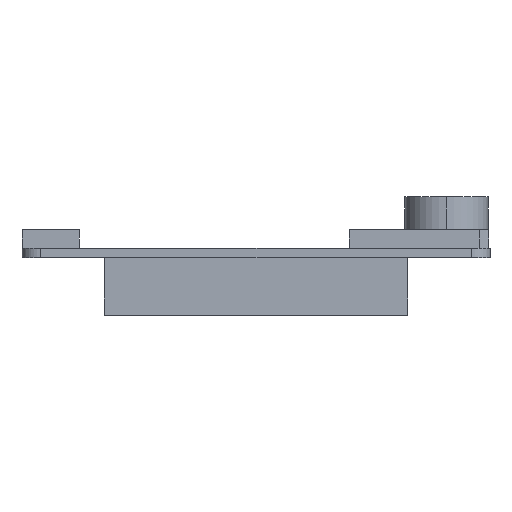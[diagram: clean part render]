
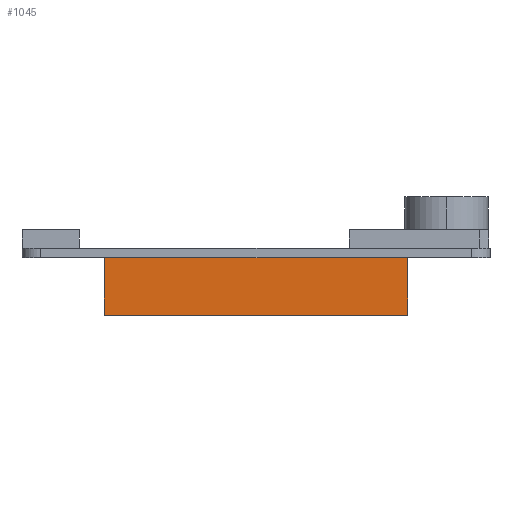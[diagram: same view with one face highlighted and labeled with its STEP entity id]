
A CAD part, left-side view. The second image highlights one B-rep face of the part: STEP entity #1045.
In plain terms, the highlighted planar face has unit normal (-1, 0, 0).
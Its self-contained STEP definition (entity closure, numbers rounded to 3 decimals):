
#255=DIRECTION('',(0.,1.,0.));
#256=VECTOR('',#255,32.42);
#257=CARTESIAN_POINT('',(-15.54,-16.46,-1.));
#258=LINE('',#257,#256);
#331=DIRECTION('',(0.,0.,1.));
#332=VECTOR('',#331,6.13);
#333=CARTESIAN_POINT('',(-15.54,15.96,-7.13));
#334=LINE('',#333,#332);
#335=DIRECTION('',(0.,0.,1.));
#336=VECTOR('',#335,6.13);
#337=CARTESIAN_POINT('',(-15.54,-16.46,-7.13));
#338=LINE('',#337,#336);
#347=DIRECTION('',(0.,-1.,0.));
#348=VECTOR('',#347,32.42);
#349=CARTESIAN_POINT('',(-15.54,15.96,-7.13));
#350=LINE('',#349,#348);
#541=CARTESIAN_POINT('',(-15.54,15.96,-1.));
#543=VERTEX_POINT('',#541);
#545=CARTESIAN_POINT('',(-15.54,-16.46,-1.));
#546=VERTEX_POINT('',#545);
#598=CARTESIAN_POINT('',(-15.54,15.96,-7.13));
#600=VERTEX_POINT('',#598);
#601=CARTESIAN_POINT('',(-15.54,-16.46,-7.13));
#602=VERTEX_POINT('',#601);
#1032=CARTESIAN_POINT('',(-15.54,-16.46,-1.));
#1033=DIRECTION('',(-1.,0.,0.));
#1034=DIRECTION('',(0.,1.,0.));
#1035=AXIS2_PLACEMENT_3D('',#1032,#1033,#1034);
#1036=PLANE('',#1035);
#1038=ORIENTED_EDGE('',*,*,#1037,.F.);
#1040=ORIENTED_EDGE('',*,*,#1039,.F.);
#1041=ORIENTED_EDGE('',*,*,#1022,.T.);
#1042=ORIENTED_EDGE('',*,*,#778,.F.);
#1043=EDGE_LOOP('',(#1038,#1040,#1041,#1042));
#1044=FACE_OUTER_BOUND('',#1043,.F.);
#778=EDGE_CURVE('',#546,#543,#258,.T.);
#1022=EDGE_CURVE('',#600,#543,#334,.T.);
#1037=EDGE_CURVE('',#602,#546,#338,.T.);
#1039=EDGE_CURVE('',#600,#602,#350,.T.);
#1045=ADVANCED_FACE('',(#1044),#1036,.T.);
